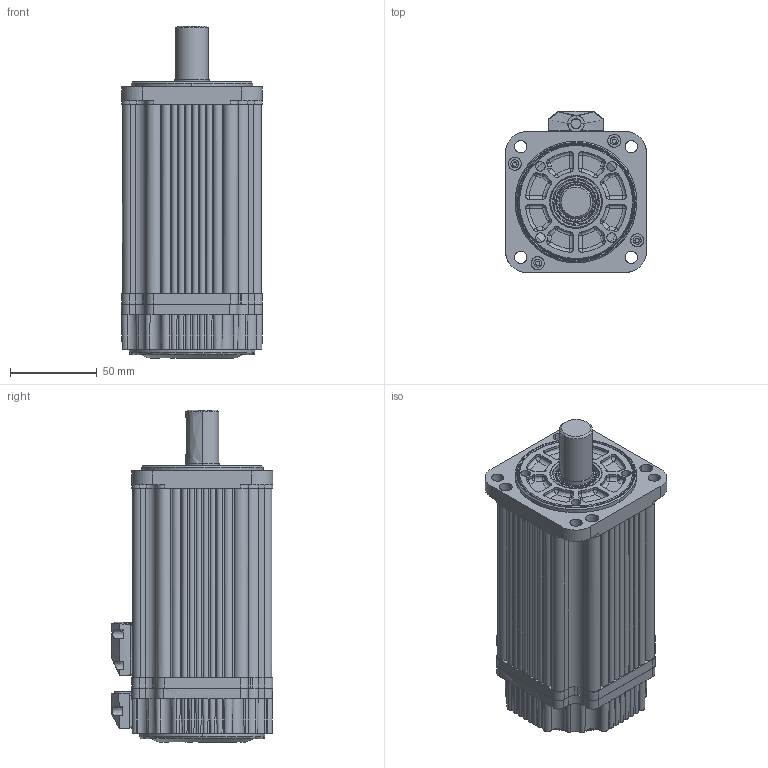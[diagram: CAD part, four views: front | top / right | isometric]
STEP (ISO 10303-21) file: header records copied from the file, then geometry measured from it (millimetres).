
FILE_DESCRIPTION (( 'STEP AP203' ), '1' );
FILE_NAME ('EMJ-10(APB,AFB,AFD,DFD)（without holding brake）.STEP', '2020-03-30T02:24:37', ( '' ), ( '' ), 'SwSTEP 2.0', 'SolidWorks 2018', '' );
FILE_SCHEMA (( 'CONFIG_CONTROL_DESIGN' ));
Length unit declared in the file: millimetre
Products named in the file (1): EMJ-10(APB,AFB,AFD,DFD)£¨without holding brake£©
Bounding box: 81.21 x 93.16 x 191 mm (x, y, z)
Surface area: 82529.9 mm2 (no closed solid volume)
Topology: 0 solids, 6 shells, 680 faces, 2003 edges, 1286 vertices
Faces by surface type: bspline 680
Entity records: 28257 total; most frequent: CARTESIAN_POINT 17498, ORIENTED_EDGE 3594, EDGE_CURVE 1961, B_SPLINE_CURVE_WITH_KNOTS 1364, VERTEX_POINT 1286, EDGE_LOOP 773, FACE_OUTER_BOUND 680, ADVANCED_FACE 680
